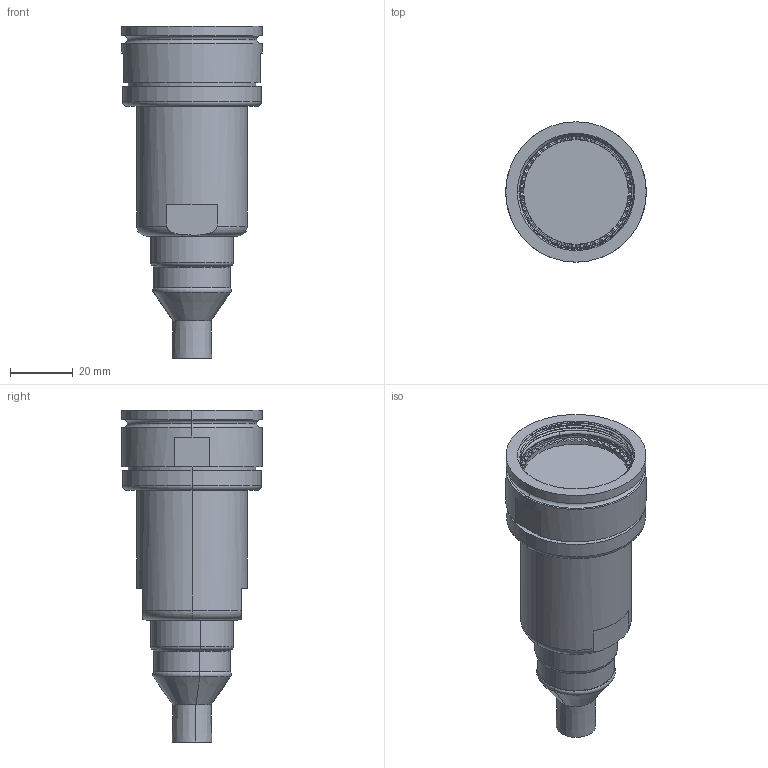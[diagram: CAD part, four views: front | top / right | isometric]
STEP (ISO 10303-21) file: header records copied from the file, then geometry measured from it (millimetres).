
FILE_DESCRIPTION (( 'STEP AP214' ), '1' );
FILE_NAME ('Q38SHELL-STX-25-XXXX-HX.STEP', '2025-09-09T18:36:07', ( '' ), ( '' ), 'SwSTEP 2.0', 'SolidWorks 2024', '' );
FILE_SCHEMA (( 'AUTOMOTIVE_DESIGN' ));
Length unit declared in the file: millimetre
Products named in the file (1): Q38SHELL-STX-25-XXXX-HX
Bounding box: 44.88 x 44.88 x 106.13 mm (x, y, z)
Volume: 81577.4 mm3; surface area: 18601.2 mm2
Topology: 2 solids, 2 shells, 280 faces, 754 edges, 492 vertices
Faces by surface type: plane 202, cylinder 37, cone 20, torus 18, bspline 3
Entity records: 9822 total; most frequent: CARTESIAN_POINT 3064, ORIENTED_EDGE 1508, DIRECTION 1418, EDGE_CURVE 754, AXIS2_PLACEMENT_3D 586, VERTEX_POINT 492, CIRCLE 308, EDGE_LOOP 296
